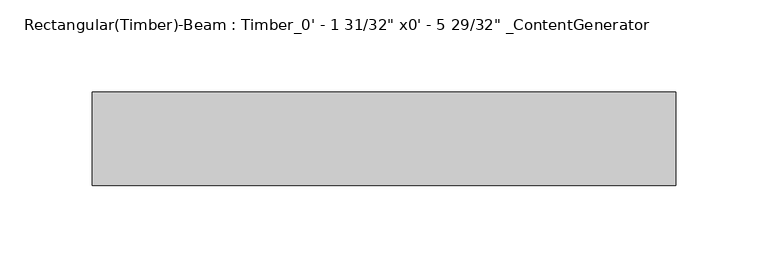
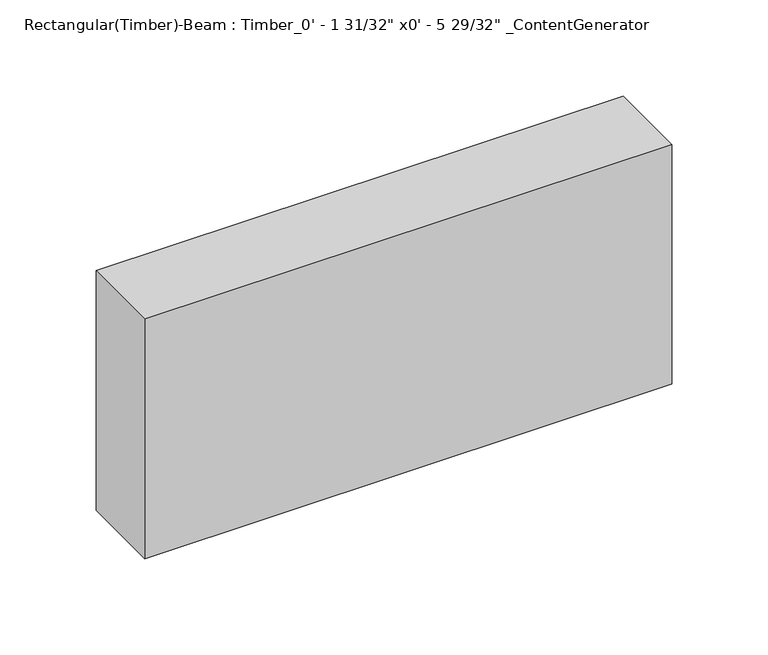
"""IFC4 building model written with IfcOpenShell, lengths in millimetres: beam geometry."""

from ifc_helpers import new_model, si_unit, frame, origin, place, context, project, spatial, polyline, outline, extrude, source, transform, mapped, element, save


def beam_5da65a01(model_context):
    return source(origin(), model_context, "Body", "SweptSolid", [
        extrude(outline(polyline([(148.1616667, 25.4), (148.1616667, -25.4), (-168.4866667, -25.4), (-168.4866667, 25.4), (148.1616667, 25.4)])), frame((0.0, 0.0, -76.2), z_axis=(0.0, 0.0, 1.0), x_axis=(1.0, 0.0, 0.0)), (0.0, 0.0, 1.0), 152.4),
    ])


if __name__ == "__main__":
    model = new_model("IFC4")
    model_context = context("Model", 3, world=origin())
    ifc_project = project(units=[si_unit("LENGTHUNIT", "METRE", prefix="MILLI")], contexts=[model_context])
    site = spatial("IfcSite", under=ifc_project)
    building = spatial("IfcBuilding", under=site)
    placement = place(None, origin())
    beam_shape = beam_5da65a01(model_context)
    element("IfcBeam", 1, ObjectType="Rectangular(Timber)-Beam : Timber_0' - 1 31/32\" x0' - 5 29/32\" _ContentGenerator", at=placement, inside=building, context=model_context, shape_type="MappedRepresentation", body=[
        mapped(beam_shape, transform((0.0, 0.0, 0.0), x_axis=(1.0, 0.0, 0.0), y_axis=(0.0, 1.0, 0.0), z_axis=(0.0, 0.0, 1.0))),
    ])
    save(model, "model.ifc")
